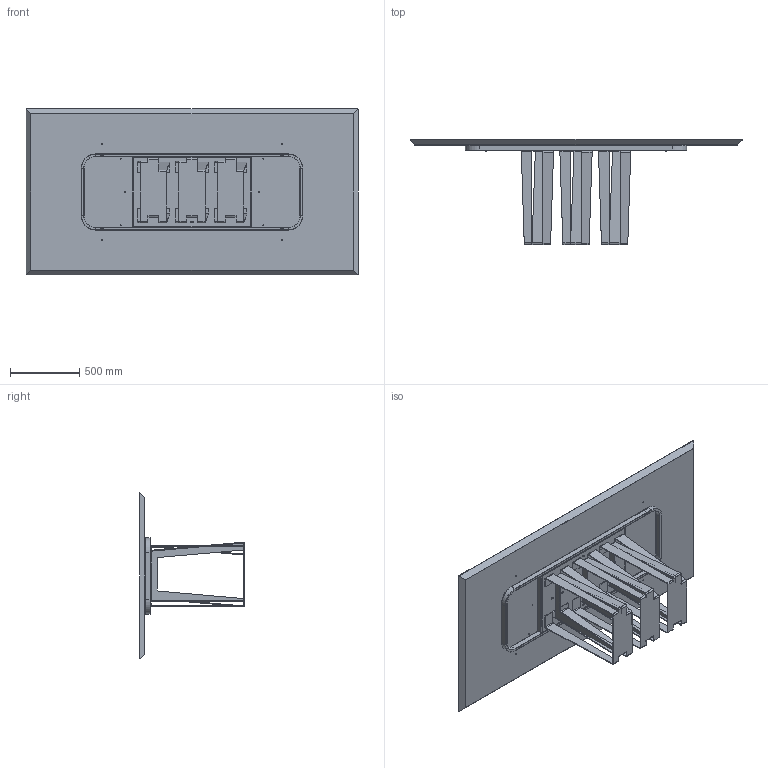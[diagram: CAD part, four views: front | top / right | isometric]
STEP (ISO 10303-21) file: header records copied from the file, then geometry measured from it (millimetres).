
FILE_DESCRIPTION (( 'STEP AP203' ), '1' );
FILE_NAME ('NA23W.STEP', '2024-08-07T14:39:07', ( '' ), ( '' ), 'SwSTEP 2.0', 'SolidWorks 2022', '' );
FILE_SCHEMA (( 'CONFIG_CONTROL_DESIGN' ));
Length unit declared in the file: millimetre
Products named in the file (7): M8xXXmm_M8x55mm; TTAV01_01-01-TELAIO UNIVERSALE X TAVOLI 180 240cm_Default<A macchina>; NAB000000-00-NARCISO BASE SING. GREZZA; TTAV01-01-TELAIO UNIVERSALE X TAVOLI 180 240cm; W2XCMXX-00-Piani Rettangolari in legno_2400 x 1200; NA23W; TTAV01_02-01-VASSOIO IRRIGIDIMENTO TELAIO UNIVERSALE
Assembly tree (17 placements, depth 3):
  NA23W
    W2XCMXX-00-Piani Rettangolari in legno_2400 x 1200
    TTAV01-01-TELAIO UNIVERSALE X TAVOLI 180 240cm
      TTAV01_01-01-TELAIO UNIVERSALE X TAVOLI 180 240cm_Default<A macchina>
      TTAV01_02-01-VASSOIO IRRIGIDIMENTO TELAIO UNIVERSALE
    NAB000000-00-NARCISO BASE SING. GREZZA  x3
    M8xXXmm_M8x55mm  x10
Bounding box: 2400 x 758 x 1200 mm (x, y, z)
Volume: 116659165.3 mm3; surface area: 10800715.9 mm2
Topology: 26 solids, 26 shells, 1143 faces, 2805 edges, 1689 vertices
Faces by surface type: plane 585, cylinder 304, cone 146, torus 72, bspline 36
Entity records: 18841 total; most frequent: CARTESIAN_POINT 3444, DIRECTION 3064, ORIENTED_EDGE 2934, EDGE_CURVE 1467, AXIS2_PLACEMENT_3D 1077, VERTEX_POINT 933, LINE 910, VECTOR 910
